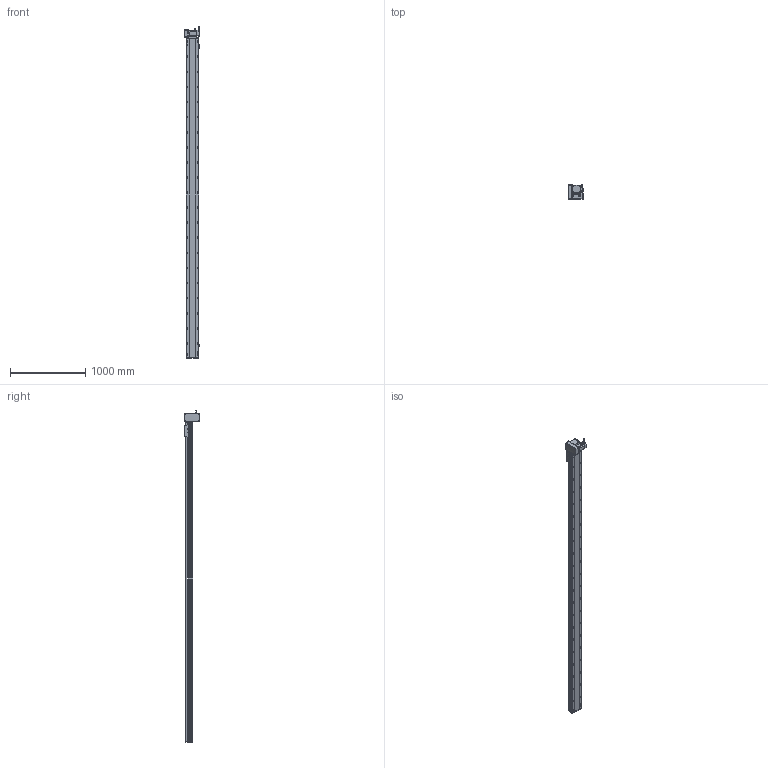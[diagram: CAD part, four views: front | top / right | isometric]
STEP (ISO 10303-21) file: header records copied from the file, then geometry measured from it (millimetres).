
FILE_DESCRIPTION (( 'STEP AP214' ), '1' );
FILE_NAME ('RTB17S-XX-3950-LM-M75-C4.STEP', '2025-12-12T00:55:16', ( '' ), ( '' ), 'SwSTEP 2.0', 'SolidWorks 2018', '' );
FILE_SCHEMA (( 'AUTOMOTIVE_DESIGN' ));
Length unit declared in the file: millimetre
Products named in the file (15): RTB17S-L-004-賑釱^RTB17S-賑釱_RTB17S-XX-XX-LM-M75-C4; RTB17S-L-007奻裔^RTB17S-XX-XX-LM-M75-C4; RTB17S-LM-々湍釱蚾饜-750W^RTB17S-XX-XX-LM-M75-C4; RTB17S-賑釱^RTB17S-XX-XX-LM-M75-C4; RTB17S-XX-3950-LM-M75-C4; RTH13-BL-012覜茼え俋离^RTB17S-賑釱_RTB17S-XX-XX-LM-M75-C4; RTB22S-GY-018P^RTB17S-LM-々湍釱蚾饜-750W_RTB17S-XX-XX-LM-M75-C4; RTB22S-GY-017P^RTB17S-LM-々湍釱蚾饜-750W_RTB17S-XX-XX-LM-M75-C4; 750W萇儂^RTB17S-XX-XX-LM-M75-C4; RTB17S-L-001-耜醱啣^RTB17S-XX-XX-LM-M75-C4; EE672^RTB17S-XX-XX-LM-M75-C4; RTB17-R-011菁釱^RTB17S-XX-XX-LM-M75-C4; RTB22S-GY-008-M75--萇儂啣^RTB17S-LM-々湍釱蚾饜-750W_RTB17S-XX-XX-LM-M75-C4; RTB22S-GY-005P^RTB17S-LM-々湍釱蚾饜-750W_RTB17S-XX-XX-LM-M75-C4; RTB17S-L-014-T20-P75--々湍釱^RTB17S-LM-々湍釱蚾饜-750W_RTB17S-XX-XX-LM-M75-C4
Assembly tree (17 placements, depth 3):
  RTB17S-XX-3950-LM-M75-C4
    RTB17-R-011菁釱^RTB17S-XX-XX-LM-M75-C4
    EE672^RTB17S-XX-XX-LM-M75-C4  x3
    RTB17S-L-001-耜醱啣^RTB17S-XX-XX-LM-M75-C4
    RTB17S-賑釱^RTB17S-XX-XX-LM-M75-C4
      RTB17S-L-004-賑釱^RTB17S-賑釱_RTB17S-XX-XX-LM-M75-C4
      RTH13-BL-012覜茼え俋离^RTB17S-賑釱_RTB17S-XX-XX-LM-M75-C4
    RTB17S-L-007奻裔^RTB17S-XX-XX-LM-M75-C4
    750W萇儂^RTB17S-XX-XX-LM-M75-C4
    RTB17S-LM-々湍釱蚾饜-750W^RTB17S-XX-XX-LM-M75-C4
      RTB17S-L-014-T20-P75--々湍釱^RTB17S-LM-々湍釱蚾饜-750W_RTB17S-XX-XX-LM-M75-C4
      RTB22S-GY-005P^RTB17S-LM-々湍釱蚾饜-750W_RTB17S-XX-XX-LM-M75-C4
      RTB22S-GY-017P^RTB17S-LM-々湍釱蚾饜-750W_RTB17S-XX-XX-LM-M75-C4  x2
      RTB22S-GY-008-M75--萇儂啣^RTB17S-LM-々湍釱蚾饜-750W_RTB17S-XX-XX-LM-M75-C4
      RTB22S-GY-018P^RTB17S-LM-々湍釱蚾饜-750W_RTB17S-XX-XX-LM-M75-C4
Bounding box: 210.4 x 200 x 4402.2 mm (x, y, z)
Volume: 30642057.7 mm3; surface area: 5694490.2 mm2
Topology: 17 solids, 17 shells, 2329 faces, 6592 edges, 4274 vertices
Faces by surface type: plane 1000, cylinder 913, bspline 294, cone 110, sphere 8, torus 4
Entity records: 69622 total; most frequent: CARTESIAN_POINT 20856, ORIENTED_EDGE 10028, DIRECTION 9212, EDGE_CURVE 5014, AXIS2_PLACEMENT_3D 3294, VERTEX_POINT 3278, VECTOR 2624, LINE 2624
